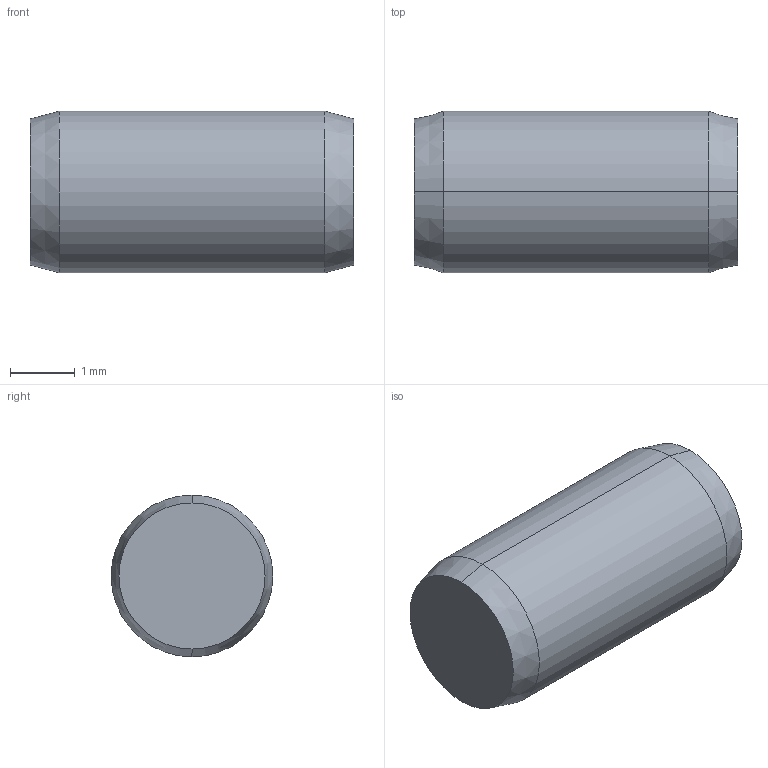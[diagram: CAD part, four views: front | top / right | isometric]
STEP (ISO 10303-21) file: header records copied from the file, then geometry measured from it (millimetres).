
FILE_DESCRIPTION (( 'STEP AP203' ), '1' );
FILE_NAME ('P1206.025-005.step', '2017-06-14T07:59:02', ( 'User' ), ( '' ), 'SwSTEP 2.0', 'SolidWorks 2009', '' );
FILE_SCHEMA (( 'CONFIG_CONTROL_DESIGN' ));
Length unit declared in the file: millimetre
Products named in the file (1): P1206.025-005
Bounding box: 5 x 2.5 x 2.5 mm (x, y, z)
Volume: 24.1 mm3; surface area: 47.2 mm2
Topology: 1 solids, 1 shells, 8 faces, 14 edges, 8 vertices
Faces by surface type: cone 4, cylinder 2, plane 2
Entity records: 271 total; most frequent: DIRECTION 40, CARTESIAN_POINT 31, ORIENTED_EDGE 28, AXIS2_PLACEMENT_3D 17, EDGE_CURVE 14, VERTEX_POINT 8, ADVANCED_FACE 8, EDGE_LOOP 8
